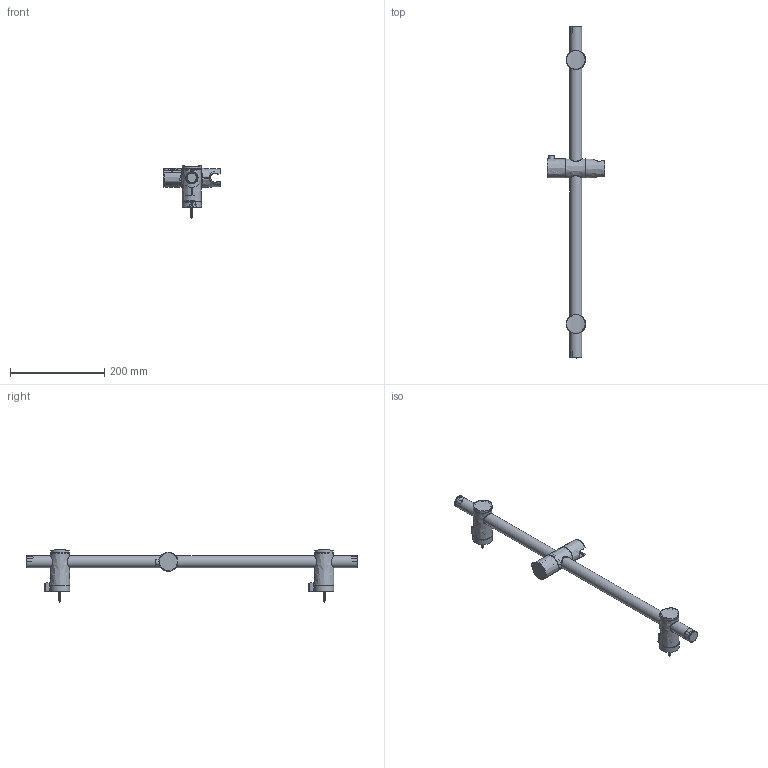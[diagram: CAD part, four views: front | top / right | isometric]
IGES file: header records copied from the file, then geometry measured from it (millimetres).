
Global section: file name: 8d13a7e7-91eb-4392-ad34-e814d9f3bfbb; native system: unknown; preprocessor: unknown; author: unknown; organization: unknown; date: 20191214.154809; units: millimetre
Bounding box: 122.21 x 704 x 112.21 mm (x, y, z)
Volume: 180551 mm3; surface area: 249051.9 mm2
Topology: 20 solids, 20 shells, 1890 faces, 5099 edges, 3322 vertices
Faces by surface type: bspline 1890
